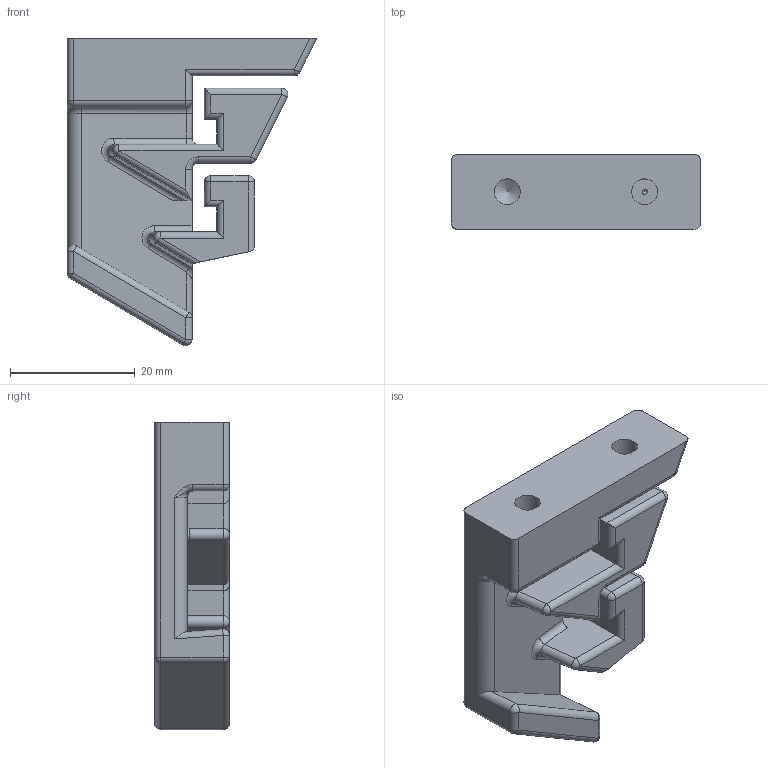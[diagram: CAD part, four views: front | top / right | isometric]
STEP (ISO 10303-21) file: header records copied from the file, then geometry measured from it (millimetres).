
FILE_DESCRIPTION( ( 'Unknown' ), '1' );
FILE_NAME( 'F:/navkite transat/construction/2016/3D ET ASSEMBLAGES/self tailing/WI 18.stp', 'Unknown', ( 'GMA' ), ( 'Unknown' ), 'XStep 1.0', 'Unknown', ' ' );
FILE_SCHEMA( ( 'automotive_design' ) );
Length unit declared in the file: millimetre
Products named in the file (1): 1
Bounding box: 40 x 12 x 49.25 mm (x, y, z)
Volume: 10888.5 mm3; surface area: 5769.7 mm2
Topology: 1 solids, 1 shells, 134 faces, 328 edges, 179 vertices
Faces by surface type: cylinder 69, plane 33, sphere 20, torus 6, bspline 4, cone 2
Full cylindrical faces by diameter (mm): 4.134 x2
Entity records: 5319 total; most frequent: CARTESIAN_POINT 1215, DIRECTION 681, ORIENTED_EDGE 596, EDGE_CURVE 298, AXIS2_PLACEMENT_3D 262, VERTEX_POINT 172, LINE 157, VECTOR 157
